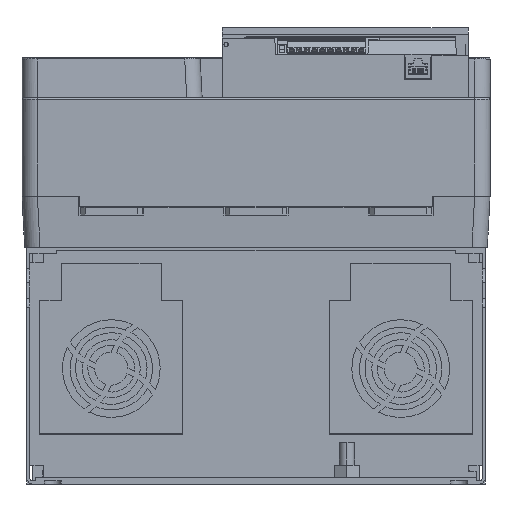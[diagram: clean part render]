
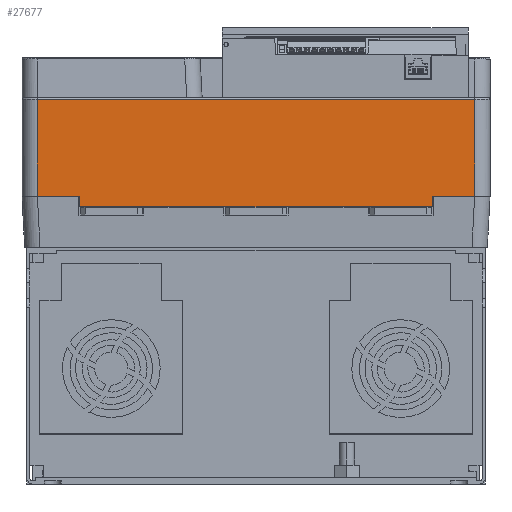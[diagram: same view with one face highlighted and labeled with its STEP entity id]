
A CAD part, front view. The second image highlights one B-rep face of the part: STEP entity #27677.
In plain terms, the highlighted planar face has unit normal (0, -1, 0).
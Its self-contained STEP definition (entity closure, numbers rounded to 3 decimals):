
#123 = DIRECTION ( 'NONE',  ( 1., 0., 0. ) ) ;
#1679 = VERTEX_POINT ( 'NONE', #30619 ) ;
#4302 = ORIENTED_EDGE ( 'NONE', *, *, #51635, .F. ) ;
#4613 = PLANE ( 'NONE',  #60798 ) ;
#4618 = CARTESIAN_POINT ( 'NONE',  ( 37.326, 31.5, 187.2 ) ) ;
#4625 = CARTESIAN_POINT ( 'NONE',  ( 294., 31.5, 250.14 ) ) ;
#4927 = LINE ( 'NONE', #43875, #52047 ) ;
#8055 = VERTEX_POINT ( 'NONE', #61075 ) ;
#9130 = DIRECTION ( 'NONE',  ( 0., -1., 0. ) ) ;
#9145 = CARTESIAN_POINT ( 'NONE',  ( 294., 31.5, 229.16 ) ) ;
#9415 = LINE ( 'NONE', #38449, #49812 ) ;
#9438 = CARTESIAN_POINT ( 'NONE',  ( 10., 31.5, 250.14 ) ) ;
#9719 = ORIENTED_EDGE ( 'NONE', *, *, #13970, .T. ) ;
#9742 = DIRECTION ( 'NONE',  ( 0.017, 0., -1. ) ) ;
#10614 = VECTOR ( 'NONE', #9742, 1000. ) ;
#10787 = VERTEX_POINT ( 'NONE', #37544 ) ;
#13916 = LINE ( 'NONE', #4618, #10614 ) ;
#13970 = EDGE_CURVE ( 'NONE', #8055, #52652, #20605, .T. ) ;
#14028 = CARTESIAN_POINT ( 'NONE',  ( 294., 31.5, 250.14 ) ) ;
#14223 = CARTESIAN_POINT ( 'NONE',  ( 10., 31.5, 208.18 ) ) ;
#15511 = ORIENTED_EDGE ( 'NONE', *, *, #53502, .T. ) ;
#15899 = B_SPLINE_CURVE_WITH_KNOTS ( 'NONE', 3,
 ( #57986, #14223, #53183, #9438 ),
 .UNSPECIFIED., .F., .F.,
 ( 4, 4 ),
 ( 0., 1. ),
 .UNSPECIFIED. ) ;
#16955 = CARTESIAN_POINT ( 'NONE',  ( 294., 31.5, 187.2 ) ) ;
#17772 = VECTOR ( 'NONE', #26573, 1000. ) ;
#20605 = B_SPLINE_CURVE_WITH_KNOTS ( 'NONE', 3,
 ( #14028, #29052, #37975, #38911 ),
 .UNSPECIFIED., .F., .F.,
 ( 4, 4 ),
 ( 0., 1. ),
 .UNSPECIFIED. ) ;
#20924 = EDGE_CURVE ( 'NONE', #59789, #10787, #4927, .T. ) ;
#21943 = VERTEX_POINT ( 'NONE', #50484 ) ;
#24236 = VECTOR ( 'NONE', #31552, 1000. ) ;
#26573 = DIRECTION ( 'NONE',  ( -1., 0., 0. ) ) ;
#27677 = ADVANCED_FACE ( 'NONE', ( #52871 ), #4613, .T. ) ;
#29018 = CARTESIAN_POINT ( 'NONE',  ( 37.326, 31.5, 187.2 ) ) ;
#29052 = CARTESIAN_POINT ( 'NONE',  ( 199.333, 31.5, 250.14 ) ) ;
#29435 = EDGE_CURVE ( 'NONE', #45273, #21943, #46010, .T. ) ;
#30619 = CARTESIAN_POINT ( 'NONE',  ( 266.674, 31.5, 187.2 ) ) ;
#31354 = CARTESIAN_POINT ( 'NONE',  ( 152., 31.5, 187.2 ) ) ;
#31552 = DIRECTION ( 'NONE',  ( -1., 0., 0. ) ) ;
#34056 = EDGE_LOOP ( 'NONE', ( #54934, #50976, #15511, #4302, #35832, #9719, #38894, #63079 ) ) ;
#35832 = ORIENTED_EDGE ( 'NONE', *, *, #37077, .F. ) ;
#35947 = EDGE_CURVE ( 'NONE', #45273, #59789, #13916, .T. ) ;
#37077 = EDGE_CURVE ( 'NONE', #8055, #55173, #52683, .T. ) ;
#37544 = CARTESIAN_POINT ( 'NONE',  ( 266.557, 31.5, 180.49 ) ) ;
#37975 = CARTESIAN_POINT ( 'NONE',  ( 104.667, 31.5, 250.14 ) ) ;
#38449 = CARTESIAN_POINT ( 'NONE',  ( 266.557, 31.5, 180.49 ) ) ;
#38479 = CARTESIAN_POINT ( 'NONE',  ( 152., 31.5, 251.14 ) ) ;
#38678 = EDGE_CURVE ( 'NONE', #21943, #52652, #15899, .T. ) ;
#38894 = ORIENTED_EDGE ( 'NONE', *, *, #38678, .F. ) ;
#38911 = CARTESIAN_POINT ( 'NONE',  ( 10., 31.5, 250.14 ) ) ;
#39399 = CARTESIAN_POINT ( 'NONE',  ( 294., 31.5, 208.18 ) ) ;
#43875 = CARTESIAN_POINT ( 'NONE',  ( 304., 31.5, 180.49 ) ) ;
#45273 = VERTEX_POINT ( 'NONE', #29018 ) ;
#46010 = LINE ( 'NONE', #31354, #17772 ) ;
#49576 = CARTESIAN_POINT ( 'NONE',  ( 10., 31.5, 250.14 ) ) ;
#49812 = VECTOR ( 'NONE', #58271, 1000. ) ;
#50484 = CARTESIAN_POINT ( 'NONE',  ( 10., 31.5, 187.2 ) ) ;
#50976 = ORIENTED_EDGE ( 'NONE', *, *, #20924, .T. ) ;
#51635 = EDGE_CURVE ( 'NONE', #55173, #1679, #60575, .T. ) ;
#52047 = VECTOR ( 'NONE', #123, 1000. ) ;
#52652 = VERTEX_POINT ( 'NONE', #49576 ) ;
#52683 = B_SPLINE_CURVE_WITH_KNOTS ( 'NONE', 3,
 ( #4625, #9145, #39399, #58314 ),
 .UNSPECIFIED., .F., .F.,
 ( 4, 4 ),
 ( 0., 1. ),
 .UNSPECIFIED. ) ;
#52871 = FACE_OUTER_BOUND ( 'NONE', #34056, .T. ) ;
#53183 = CARTESIAN_POINT ( 'NONE',  ( 10., 31.5, 229.16 ) ) ;
#53502 = EDGE_CURVE ( 'NONE', #10787, #1679, #9415, .T. ) ;
#53782 = DIRECTION ( 'NONE',  ( 0., 0., 1. ) ) ;
#54934 = ORIENTED_EDGE ( 'NONE', *, *, #35947, .T. ) ;
#55173 = VERTEX_POINT ( 'NONE', #16955 ) ;
#56150 = CARTESIAN_POINT ( 'NONE',  ( 152., 31.5, 187.2 ) ) ;
#57986 = CARTESIAN_POINT ( 'NONE',  ( 10., 31.5, 187.2 ) ) ;
#58271 = DIRECTION ( 'NONE',  ( 0.017, 0., 1. ) ) ;
#58314 = CARTESIAN_POINT ( 'NONE',  ( 294., 31.5, 187.2 ) ) ;
#58872 = CARTESIAN_POINT ( 'NONE',  ( 37.443, 31.5, 180.49 ) ) ;
#59789 = VERTEX_POINT ( 'NONE', #58872 ) ;
#60575 = LINE ( 'NONE', #56150, #24236 ) ;
#60798 = AXIS2_PLACEMENT_3D ( 'NONE', #38479, #9130, #53782 ) ;
#61075 = CARTESIAN_POINT ( 'NONE',  ( 294., 31.5, 250.14 ) ) ;
#63079 = ORIENTED_EDGE ( 'NONE', *, *, #29435, .F. ) ;
